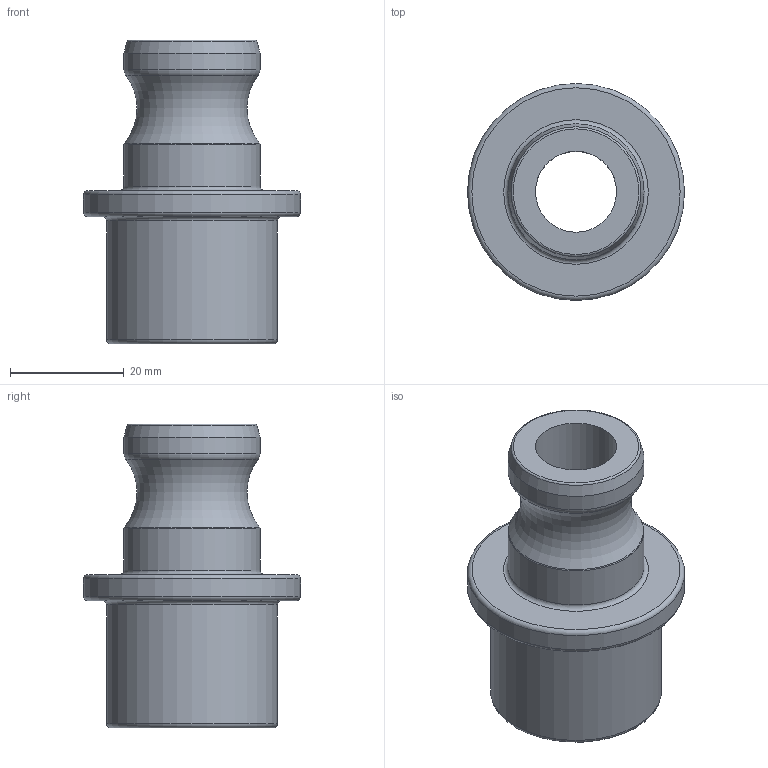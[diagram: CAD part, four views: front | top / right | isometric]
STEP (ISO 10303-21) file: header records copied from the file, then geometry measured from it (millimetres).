
FILE_DESCRIPTION(/* description */ ('Alibre Inc.'),/* implementation_level */ '2;1');
FILE_NAME(/* name */ 'export0',/* time_stamp */ '2016-04-26T10:40:52-04:00',/* author */ (''),/* organization */ (''),/* preprocessor_version */ 'ST-DEVELOPER v14',/* originating_system */ 'Alibre',/* authorisation */ '');
FILE_SCHEMA (('CONFIG_CONTROL_DESIGN'));
Length unit declared in the file: centimetre
Products named in the file (1): ID_1
Bounding box: 38.1 x 38.1 x 53.34 mm (x, y, z)
Volume: 18464 mm3; surface area: 9191.9 mm2
Topology: 1 solids, 1 shells, 22 faces, 41 edges, 24 vertices
Faces by surface type: torus 9, cylinder 6, plane 5, cone 2
Full cylindrical faces by diameter (mm): 14.224 x1, 21.336 x1, 23.876 x2, 29.972 x1, 38.1 x1
Entity records: 519 total; most frequent: DIRECTION 74, CARTESIAN_POINT 66, ORIENTED_EDGE 44, EDGE_LOOP 44, FACE_BOUND 44, AXIS2_PLACEMENT_3D 44, VERTEX_POINT 22, CIRCLE 22
